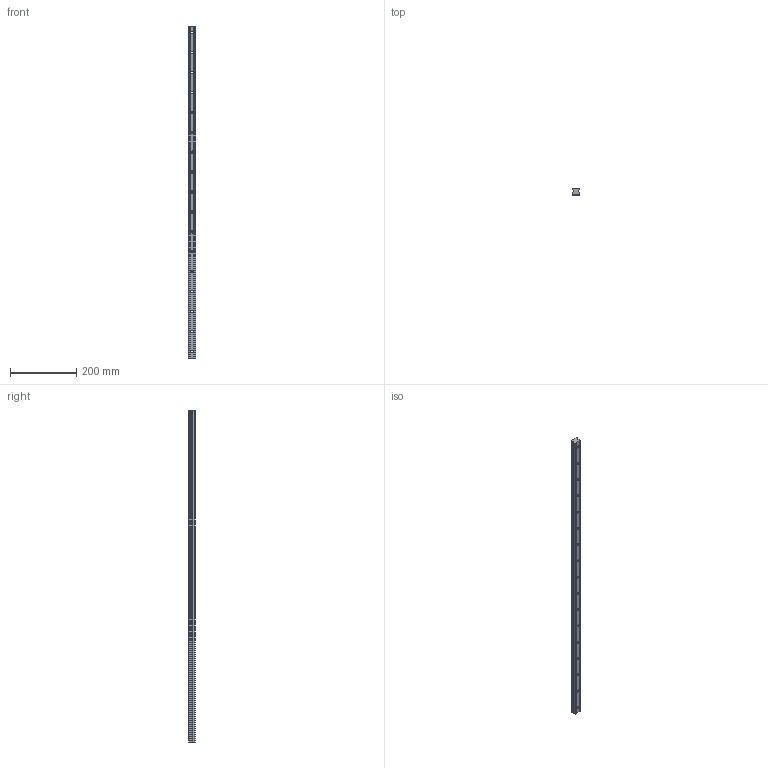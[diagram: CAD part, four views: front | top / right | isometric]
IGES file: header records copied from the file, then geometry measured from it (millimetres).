
Start section: SolidWorks IGES file using analytic representation for surfaces
Global section: file name: C:\Users\IanO\Desktop\L1016_v2\L1016.BL25_v2\L1016.BL25_v2_20160611_IGES\L1016.BL25-1000.igs; native system: SolidWorks 2017; preprocessor: SolidWorks 2017; author: IanO; date: 190612.130630; units: millimetre
Bounding box: 23 x 19.2 x 1000 mm (x, y, z)
Surface area: 95226 mm2 (no closed solid volume)
Topology: 0 solids, 0 shells, 111 faces, 2616 edges, 2616 vertices
Faces by surface type: revolution 72, bspline 39
